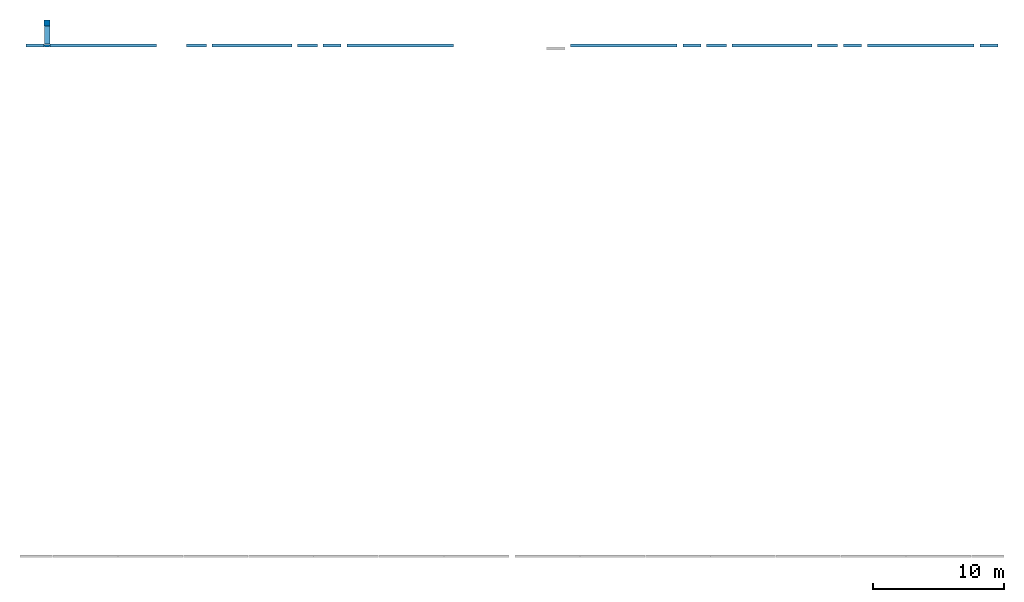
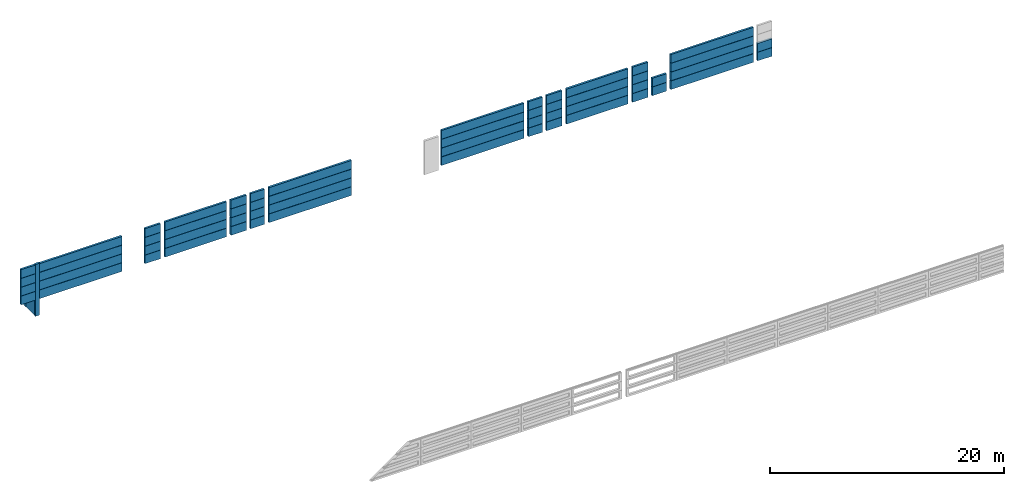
# One storey, part 1 of 3: 57 beams, 2 columns.
"""IFC2X3 building model written with IfcOpenShell, lengths in millimetres."""

from ifc_helpers import new_model, entity, si_unit, converted_unit, derived_unit, direction, frame, frame_2d, origin, origin_2d_with_axis, place, context, subcontext, project, spatial, polyline, rectangle, outline, extrude, source, transform, mapped, material, type_object, type_shapes, element, save


model = new_model("IFC2X3")

# Units and contexts
model_context = context("Model", 3, precision=0.01, world=origin(), true_north=direction((6.12303176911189e-17, 1.0)))
body_context = subcontext(model_context, "Body", "Model", "MODEL_VIEW")
ifc_project = project(units=[si_unit("LENGTHUNIT", "METRE", prefix="MILLI"), si_unit("AREAUNIT", "SQUARE_METRE"), si_unit("VOLUMEUNIT", "CUBIC_METRE"), converted_unit("PLANEANGLEUNIT", "DEGREE", entity("IfcRatioMeasure", 0.0174532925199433), si_unit("PLANEANGLEUNIT", "RADIAN"), dimensions=[0, 0, 0, 0, 0, 0, 0]), si_unit("MASSUNIT", "GRAM", prefix="KILO"), derived_unit("MASSDENSITYUNIT", [(si_unit("MASSUNIT", "GRAM", prefix="KILO"), 1), (si_unit("LENGTHUNIT", "METRE"), -3)]), derived_unit("MOMENTOFINERTIAUNIT", [(si_unit("LENGTHUNIT", "METRE"), 4)]), si_unit("TIMEUNIT", "SECOND"), si_unit("FREQUENCYUNIT", "HERTZ"), si_unit("THERMODYNAMICTEMPERATUREUNIT", "DEGREE_CELSIUS"), derived_unit("THERMALTRANSMITTANCEUNIT", [(si_unit("MASSUNIT", "GRAM", prefix="KILO"), 1), (si_unit("THERMODYNAMICTEMPERATUREUNIT", "KELVIN"), -1), (si_unit("TIMEUNIT", "SECOND"), -3)]), derived_unit("VOLUMETRICFLOWRATEUNIT", [(si_unit("LENGTHUNIT", "METRE"), 3), (si_unit("TIMEUNIT", "SECOND"), -1)]), si_unit("ELECTRICCURRENTUNIT", "AMPERE"), si_unit("ELECTRICVOLTAGEUNIT", "VOLT"), si_unit("POWERUNIT", "WATT"), si_unit("FORCEUNIT", "NEWTON", prefix="KILO"), si_unit("ILLUMINANCEUNIT", "LUX"), si_unit("LUMINOUSFLUXUNIT", "LUMEN"), si_unit("LUMINOUSINTENSITYUNIT", "CANDELA"), derived_unit("USERDEFINED", [(si_unit("MASSUNIT", "GRAM", prefix="KILO"), -1), (si_unit("LENGTHUNIT", "METRE"), -2), (si_unit("TIMEUNIT", "SECOND"), 3), (si_unit("LUMINOUSFLUXUNIT", "LUMEN"), 1)]), derived_unit("LINEARVELOCITYUNIT", [(si_unit("LENGTHUNIT", "METRE"), 1), (si_unit("TIMEUNIT", "SECOND"), -1)]), si_unit("PRESSUREUNIT", "PASCAL"), derived_unit("USERDEFINED", [(si_unit("LENGTHUNIT", "METRE"), -2), (si_unit("MASSUNIT", "GRAM", prefix="KILO"), 1), (si_unit("TIMEUNIT", "SECOND"), -2)]), derived_unit("LINEARFORCEUNIT", [(si_unit("MASSUNIT", "GRAM", prefix="KILO"), 1), (si_unit("LENGTHUNIT", "METRE"), 1), (si_unit("TIMEUNIT", "SECOND"), -2), (si_unit("LENGTHUNIT", "METRE"), -1)]), derived_unit("PLANARFORCEUNIT", [(si_unit("MASSUNIT", "GRAM", prefix="KILO"), 1), (si_unit("LENGTHUNIT", "METRE"), 1), (si_unit("TIMEUNIT", "SECOND"), -2), (si_unit("LENGTHUNIT", "METRE"), -2)])], contexts=[model_context])

# Site, building, storey
site_placement = place(None, frame((10627.5135316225, 21939.0796949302, 0.0)))
site = spatial("IfcSite", under=ifc_project, at=site_placement, Name="Default", CompositionType="ELEMENT")
building_placement = place(site_placement, origin())
building = spatial("IfcBuilding", under=site, at=building_placement, CompositionType="ELEMENT")
storey_placement = place(building_placement, frame((0.0, 0.0, 7320.0)))
storey = spatial("IfcBuildingStorey", under=building, at=storey_placement, Name="R+2", CompositionType="ELEMENT", Elevation=7320.0)

# Columns
ifc_material = material(Name="Concrete, Precast Smooth, Light Grey")
column_type_1 = type_object("IfcColumnType", Name="M_Precast-Rectangular Column:430X200", PredefinedType="COLUMN", material=ifc_material)
shared_shape_1 = source(origin(), body_context, "Body", "SweptSolid", [
    extrude(outline(polyline([(-75.0, -215.0), (75.0, -215.0), (100.0, -190.0), (100.0, 190.0), (75.0, 215.0), (-75.0, 215.0), (-100.0, 190.0), (-100.0, -190.0), (-75.0, -215.0)])), frame((0.0, 0.0, 5820.0), z_axis=(0.0, 0.0, 1.0), x_axis=(0.0, -1.0, 0.0)), (0.0, 0.0, 1.0), 5410.0),
])
type_shapes(column_type_1, [shared_shape_1])
column_1_placement = place(storey_placement, frame((-8797.51353162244, 16585.9203050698, -7320.0), z_axis=(0.0, 0.0, 1.0), x_axis=(-1.0, 0.0, 0.0)))
element("IfcColumn", 1, at=column_1_placement, inside=storey, type_object=column_type_1, material=ifc_material, Name="M_Precast-Rectangular Column:430X200", ObjectType="M_Precast-Rectangular Column:430X200", context=body_context, shape_type="MappedRepresentation", body=[
    mapped(shared_shape_1, transform((0.0, 0.0, 0.0), scale=1.0)),
])
column_type_2 = type_object("IfcColumnType", Name="M_Precast-Square Column:430x430", PredefinedType="COLUMN", material=ifc_material)
shared_shape_2 = source(origin(), body_context, "Body", "SweptSolid", [
    extrude(rectangle(XDim=430.0, YDim=430.0, at=origin_2d_with_axis()), frame((0.0, 0.0, 5820.0), z_axis=(0.0, 0.0, 1.0), x_axis=(0.0, -1.0, 0.0)), (0.0, 0.0, 1.0), 2970.0),
])
type_shapes(column_type_2, [shared_shape_2])
column_2_placement = place(storey_placement, frame((-8797.51353162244, 18310.9203050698, -7320.0), z_axis=(0.0, 0.0, 1.0), x_axis=(-1.0, 0.0, 0.0)))
element("IfcColumn", 2, at=column_2_placement, inside=storey, type_object=column_type_2, material=ifc_material, Name="M_Precast-Square Column:430x430", ObjectType="M_Precast-Square Column:430x430", context=body_context, shape_type="MappedRepresentation", body=[
    mapped(shared_shape_2, transform((0.0, 0.0, 0.0), scale=1.0)),
])

# Beams
beam_type_1 = type_object("IfcBeamType", Name="NBS_AndertonConcreteProductsLtd_PrcstConcPnls_BallastBoard300:PPT TYPE4", PredefinedType="NOTDEFINED")
beam_1_placement = place(storey_placement, origin())
element("IfcBeam", 3, at=beam_1_placement, inside=storey, type_object=beam_type_1, material=ifc_material, Name="NBS_AndertonConcreteProductsLtd_PrcstConcPnls_BallastBoard300:PPT TYPE4", ObjectType="NBS_AndertonConcreteProductsLtd_PrcstConcPnls_BallastBoard300:PPT TYPE4", context=body_context, shape_type="SweptSolid", body=[
    extrude(rectangle(XDim=898.300000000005, YDim=200.0, at=frame_2d((-1.08713038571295e-12, 5.40012479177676e-13), x_axis=(0.0, 1.0))), frame((-8582.51353162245, 16595.9203050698, 648.950000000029), z_axis=(1.0, 0.0, 0.0), x_axis=(0.0, 1.0, 0.0)), (0.0, 0.0, 1.0), 8120.0),
])
beam_2_placement = place(storey_placement, origin())
element("IfcBeam", 4, at=beam_2_placement, inside=storey, type_object=beam_type_1, material=ifc_material, Name="NBS_AndertonConcreteProductsLtd_PrcstConcPnls_BallastBoard300:PPT TYPE4", ObjectType="NBS_AndertonConcreteProductsLtd_PrcstConcPnls_BallastBoard300:PPT TYPE4", context=body_context, shape_type="SweptSolid", body=[
    extrude(rectangle(XDim=898.300000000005, YDim=200.0, at=frame_2d((-1.08713038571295e-12, 5.40012479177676e-13), x_axis=(0.0, 1.0))), frame((14015.4864683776, 16595.9203050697, 648.950000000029), z_axis=(1.0, 0.0, 0.0), x_axis=(0.0, 1.0, 0.0)), (0.0, 0.0, 1.0), 8120.0),
])
beam_3_placement = place(storey_placement, origin())
element("IfcBeam", 5, at=beam_3_placement, inside=storey, type_object=beam_type_1, material=ifc_material, Name="NBS_AndertonConcreteProductsLtd_PrcstConcPnls_BallastBoard300:PPT TYPE4", ObjectType="NBS_AndertonConcreteProductsLtd_PrcstConcPnls_BallastBoard300:PPT TYPE4", context=body_context, shape_type="SweptSolid", body=[
    extrude(rectangle(XDim=898.300000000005, YDim=200.0, at=frame_2d((1.08713038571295e-12, -5.40012479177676e-13), x_axis=(0.0, 1.0))), frame((14015.4864683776, 16595.9203050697, 1567.25000000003), z_axis=(1.0, 0.0, 0.0), x_axis=(0.0, 1.0, 0.0)), (0.0, 0.0, 1.0), 8120.0),
])
beam_4_placement = place(storey_placement, origin())
element("IfcBeam", 6, at=beam_4_placement, inside=storey, type_object=beam_type_1, material=ifc_material, Name="NBS_AndertonConcreteProductsLtd_PrcstConcPnls_BallastBoard300:PPT TYPE4", ObjectType="NBS_AndertonConcreteProductsLtd_PrcstConcPnls_BallastBoard300:PPT TYPE4", context=body_context, shape_type="SweptSolid", body=[
    extrude(rectangle(XDim=898.300000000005, YDim=200.0, at=frame_2d((-1.08713038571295e-12, -5.40012479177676e-13), x_axis=(0.0, 1.0))), frame((14015.4864683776, 16595.9203050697, 2485.55000000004), z_axis=(1.0, 0.0, 0.0), x_axis=(0.0, 1.0, 0.0)), (0.0, 0.0, 1.0), 8120.0),
])
beam_5_placement = place(storey_placement, origin())
element("IfcBeam", 7, at=beam_5_placement, inside=storey, type_object=beam_type_1, material=ifc_material, Name="NBS_AndertonConcreteProductsLtd_PrcstConcPnls_BallastBoard300:PPT TYPE4", ObjectType="NBS_AndertonConcreteProductsLtd_PrcstConcPnls_BallastBoard300:PPT TYPE4", context=body_context, shape_type="SweptSolid", body=[
    extrude(rectangle(XDim=898.300000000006, YDim=200.0, at=frame_2d((1.08713038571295e-12, -1.08002495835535e-12), x_axis=(0.0, 1.0))), frame((14015.4864683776, 16595.9203050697, 3403.85000000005), z_axis=(1.0, 0.0, 0.0), x_axis=(0.0, 1.0, 0.0)), (0.0, 0.0, 1.0), 8120.0),
])
beam_6_placement = place(storey_placement, origin())
element("IfcBeam", 8, at=beam_6_placement, inside=storey, type_object=beam_type_1, material=ifc_material, Name="NBS_AndertonConcreteProductsLtd_PrcstConcPnls_BallastBoard300:PPT TYPE4", ObjectType="NBS_AndertonConcreteProductsLtd_PrcstConcPnls_BallastBoard300:PPT TYPE4", context=body_context, shape_type="SweptSolid", body=[
    extrude(rectangle(XDim=898.300000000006, YDim=200.0, at=frame_2d((1.08002495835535e-12, -1.08713038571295e-12), x_axis=(1.0, 0.0))), frame((53617.4864683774, 16595.9203050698, 648.950000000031), z_axis=(1.0, 0.0, 0.0), x_axis=(0.0, 0.0, -1.0)), (0.0, 0.0, 1.0), 8120.0),
])
beam_7_placement = place(storey_placement, origin())
element("IfcBeam", 9, at=beam_7_placement, inside=storey, type_object=beam_type_1, material=ifc_material, Name="NBS_AndertonConcreteProductsLtd_PrcstConcPnls_BallastBoard300:PPT TYPE4", ObjectType="NBS_AndertonConcreteProductsLtd_PrcstConcPnls_BallastBoard300:PPT TYPE4", context=body_context, shape_type="SweptSolid", body=[
    extrude(rectangle(XDim=898.300000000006, YDim=200.0, at=frame_2d((1.08002495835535e-12, -1.08713038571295e-12), x_axis=(1.0, 0.0))), frame((31019.4864683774, 16595.9203050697, 648.950000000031), z_axis=(1.0, 0.0, 0.0), x_axis=(0.0, 0.0, -1.0)), (0.0, 0.0, 1.0), 8120.0),
])
beam_8_placement = place(storey_placement, origin())
element("IfcBeam", 10, at=beam_8_placement, inside=storey, type_object=beam_type_1, material=ifc_material, Name="NBS_AndertonConcreteProductsLtd_PrcstConcPnls_BallastBoard300:PPT TYPE4", ObjectType="NBS_AndertonConcreteProductsLtd_PrcstConcPnls_BallastBoard300:PPT TYPE4", context=body_context, shape_type="SweptSolid", body=[
    extrude(rectangle(XDim=898.300000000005, YDim=200.0, at=frame_2d((5.40012479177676e-13, 1.08713038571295e-12), x_axis=(1.0, 0.0))), frame((31019.4864683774, 16595.9203050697, 1567.25000000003), z_axis=(1.0, 0.0, 0.0), x_axis=(0.0, 0.0, -1.0)), (0.0, 0.0, 1.0), 8120.0),
])
beam_9_placement = place(storey_placement, origin())
element("IfcBeam", 11, at=beam_9_placement, inside=storey, type_object=beam_type_1, material=ifc_material, Name="NBS_AndertonConcreteProductsLtd_PrcstConcPnls_BallastBoard300:PPT TYPE4", ObjectType="NBS_AndertonConcreteProductsLtd_PrcstConcPnls_BallastBoard300:PPT TYPE4", context=body_context, shape_type="SweptSolid", body=[
    extrude(rectangle(XDim=898.300000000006, YDim=200.0, at=frame_2d((5.40012479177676e-13, 1.08713038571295e-12), x_axis=(1.0, 0.0))), frame((31019.4864683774, 16595.9203050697, 2485.55000000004), z_axis=(1.0, 0.0, 0.0), x_axis=(0.0, 0.0, -1.0)), (0.0, 0.0, 1.0), 8120.0),
])
beam_10_placement = place(storey_placement, origin())
element("IfcBeam", 12, at=beam_10_placement, inside=storey, type_object=beam_type_1, material=ifc_material, Name="NBS_AndertonConcreteProductsLtd_PrcstConcPnls_BallastBoard300:PPT TYPE4", ObjectType="NBS_AndertonConcreteProductsLtd_PrcstConcPnls_BallastBoard300:PPT TYPE4", context=body_context, shape_type="SweptSolid", body=[
    extrude(rectangle(XDim=898.300000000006, YDim=200.0, at=frame_2d((-1.08002495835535e-12, -1.08713038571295e-12), x_axis=(1.0, 0.0))), frame((31019.4864683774, 16595.9203050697, 3403.85000000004), z_axis=(1.0, 0.0, 0.0), x_axis=(0.0, 0.0, -1.0)), (0.0, 0.0, 1.0), 8120.0),
])
beam_11_placement = place(storey_placement, origin())
element("IfcBeam", 13, at=beam_11_placement, inside=storey, type_object=beam_type_1, material=ifc_material, Name="NBS_AndertonConcreteProductsLtd_PrcstConcPnls_BallastBoard300:PPT TYPE4", ObjectType="NBS_AndertonConcreteProductsLtd_PrcstConcPnls_BallastBoard300:PPT TYPE4", context=body_context, shape_type="SweptSolid", body=[
    extrude(rectangle(XDim=898.300000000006, YDim=200.0, at=frame_2d((-1.08002495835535e-12, -1.08713038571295e-12), x_axis=(1.0, 0.0))), frame((53617.4864683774, 16595.9203050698, 1567.25000000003), z_axis=(1.0, 0.0, 0.0), x_axis=(0.0, 0.0, -1.0)), (0.0, 0.0, 1.0), 8120.0),
])
beam_12_placement = place(storey_placement, origin())
element("IfcBeam", 14, at=beam_12_placement, inside=storey, type_object=beam_type_1, material=ifc_material, Name="NBS_AndertonConcreteProductsLtd_PrcstConcPnls_BallastBoard300:PPT TYPE4", ObjectType="NBS_AndertonConcreteProductsLtd_PrcstConcPnls_BallastBoard300:PPT TYPE4", context=body_context, shape_type="SweptSolid", body=[
    extrude(rectangle(XDim=898.300000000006, YDim=200.0, at=frame_2d((-1.62003743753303e-12, -1.08713038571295e-12), x_axis=(1.0, 0.0))), frame((53617.4864683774, 16595.9203050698, 2485.55000000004), z_axis=(1.0, 0.0, 0.0), x_axis=(0.0, 0.0, -1.0)), (0.0, 0.0, 1.0), 8120.0),
])
beam_13_placement = place(storey_placement, origin())
element("IfcBeam", 15, at=beam_13_placement, inside=storey, type_object=beam_type_1, material=ifc_material, Name="NBS_AndertonConcreteProductsLtd_PrcstConcPnls_BallastBoard300:PPT TYPE4", ObjectType="NBS_AndertonConcreteProductsLtd_PrcstConcPnls_BallastBoard300:PPT TYPE4", context=body_context, shape_type="SweptSolid", body=[
    extrude(rectangle(XDim=898.300000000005, YDim=200.0, at=frame_2d((1.08713038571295e-12, -5.40012479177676e-13), x_axis=(0.0, 1.0))), frame((-8582.51353162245, 16595.9203050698, 1567.25000000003), z_axis=(1.0, 0.0, 0.0), x_axis=(0.0, 1.0, 0.0)), (0.0, 0.0, 1.0), 8120.0),
])
beam_14_placement = place(storey_placement, origin())
element("IfcBeam", 16, at=beam_14_placement, inside=storey, type_object=beam_type_1, material=ifc_material, Name="NBS_AndertonConcreteProductsLtd_PrcstConcPnls_BallastBoard300:PPT TYPE4", ObjectType="NBS_AndertonConcreteProductsLtd_PrcstConcPnls_BallastBoard300:PPT TYPE4", context=body_context, shape_type="SweptSolid", body=[
    extrude(rectangle(XDim=898.300000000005, YDim=200.0, at=frame_2d((-1.08713038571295e-12, -5.40012479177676e-13), x_axis=(0.0, 1.0))), frame((-8582.51353162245, 16595.9203050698, 2485.55000000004), z_axis=(1.0, 0.0, 0.0), x_axis=(0.0, 1.0, 0.0)), (0.0, 0.0, 1.0), 8120.0),
])
beam_15_placement = place(storey_placement, origin())
element("IfcBeam", 17, at=beam_15_placement, inside=storey, type_object=beam_type_1, material=ifc_material, Name="NBS_AndertonConcreteProductsLtd_PrcstConcPnls_BallastBoard300:PPT TYPE4", ObjectType="NBS_AndertonConcreteProductsLtd_PrcstConcPnls_BallastBoard300:PPT TYPE4", context=body_context, shape_type="SweptSolid", body=[
    extrude(rectangle(XDim=898.300000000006, YDim=200.0, at=frame_2d((1.08713038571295e-12, -1.08002495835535e-12), x_axis=(0.0, 1.0))), frame((-8582.51353162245, 16595.9203050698, 3403.85000000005), z_axis=(1.0, 0.0, 0.0), x_axis=(0.0, 1.0, 0.0)), (0.0, 0.0, 1.0), 8120.0),
])
beam_16_placement = place(storey_placement, origin())
element("IfcBeam", 18, at=beam_16_placement, inside=storey, type_object=beam_type_1, material=ifc_material, Name="NBS_AndertonConcreteProductsLtd_PrcstConcPnls_BallastBoard300:PPT TYPE4", ObjectType="NBS_AndertonConcreteProductsLtd_PrcstConcPnls_BallastBoard300:PPT TYPE4", context=body_context, shape_type="SweptSolid", body=[
    extrude(rectangle(XDim=898.300000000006, YDim=200.0, at=frame_2d((1.08002495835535e-12, 1.08713038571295e-12), x_axis=(1.0, 0.0))), frame((53617.4864683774, 16595.9203050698, 3403.85000000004), z_axis=(1.0, 0.0, 0.0), x_axis=(0.0, 0.0, -1.0)), (0.0, 0.0, 1.0), 8120.0),
])
beam_type_2 = type_object("IfcBeamType", Name="NBS_AndertonConcreteProductsLtd_PrcstConcPnls_BallastBoard300:PPT TYPE5", PredefinedType="NOTDEFINED")
beam_17_placement = place(storey_placement, origin())
element("IfcBeam", 19, at=beam_17_placement, inside=storey, type_object=beam_type_2, material=ifc_material, Name="NBS_AndertonConcreteProductsLtd_PrcstConcPnls_BallastBoard300:PPT TYPE5", ObjectType="NBS_AndertonConcreteProductsLtd_PrcstConcPnls_BallastBoard300:PPT TYPE5", context=body_context, shape_type="SweptSolid", body=[
    extrude(rectangle(XDim=898.300000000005, YDim=200.0, at=frame_2d((1.08713038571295e-12, 5.40012479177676e-13), x_axis=(0.0, 1.0))), frame((1799.48646837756, 16595.9203050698, 648.950000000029), z_axis=(1.0, 0.0, 0.0), x_axis=(0.0, 1.0, 0.0)), (0.0, 0.0, 1.0), 1525.0),
])
beam_18_placement = place(storey_placement, origin())
element("IfcBeam", 20, at=beam_18_placement, inside=storey, type_object=beam_type_2, material=ifc_material, Name="NBS_AndertonConcreteProductsLtd_PrcstConcPnls_BallastBoard300:PPT TYPE5", ObjectType="NBS_AndertonConcreteProductsLtd_PrcstConcPnls_BallastBoard300:PPT TYPE5", context=body_context, shape_type="SweptSolid", body=[
    extrude(rectangle(XDim=898.300000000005, YDim=200.0, at=frame_2d((-1.08713038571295e-12, 5.40012479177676e-13), x_axis=(0.0, 1.0))), frame((10258.6417434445, 16595.9203050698, 648.950000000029), z_axis=(1.0, 0.0, 0.0), x_axis=(0.0, 1.0, 0.0)), (0.0, 0.0, 1.0), 1525.0),
])
beam_19_placement = place(storey_placement, origin())
element("IfcBeam", 21, at=beam_19_placement, inside=storey, type_object=beam_type_2, material=ifc_material, Name="NBS_AndertonConcreteProductsLtd_PrcstConcPnls_BallastBoard300:PPT TYPE5", ObjectType="NBS_AndertonConcreteProductsLtd_PrcstConcPnls_BallastBoard300:PPT TYPE5", context=body_context, shape_type="SweptSolid", body=[
    extrude(rectangle(XDim=898.300000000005, YDim=200.0, at=frame_2d((-1.08713038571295e-12, -5.40012479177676e-13), x_axis=(0.0, 1.0))), frame((1799.48646837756, 16595.9203050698, 1567.25000000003), z_axis=(1.0, 0.0, 0.0), x_axis=(0.0, 1.0, 0.0)), (0.0, 0.0, 1.0), 1525.0),
])
beam_20_placement = place(storey_placement, origin())
element("IfcBeam", 22, at=beam_20_placement, inside=storey, type_object=beam_type_2, material=ifc_material, Name="NBS_AndertonConcreteProductsLtd_PrcstConcPnls_BallastBoard300:PPT TYPE5", ObjectType="NBS_AndertonConcreteProductsLtd_PrcstConcPnls_BallastBoard300:PPT TYPE5", context=body_context, shape_type="SweptSolid", body=[
    extrude(rectangle(XDim=898.300000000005, YDim=200.0, at=frame_2d((1.08713038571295e-12, -5.40012479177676e-13), x_axis=(0.0, 1.0))), frame((10258.6417434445, 16595.9203050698, 1567.25000000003), z_axis=(1.0, 0.0, 0.0), x_axis=(0.0, 1.0, 0.0)), (0.0, 0.0, 1.0), 1525.0),
])
beam_21_placement = place(storey_placement, origin())
element("IfcBeam", 23, at=beam_21_placement, inside=storey, type_object=beam_type_2, material=ifc_material, Name="NBS_AndertonConcreteProductsLtd_PrcstConcPnls_BallastBoard300:PPT TYPE5", ObjectType="NBS_AndertonConcreteProductsLtd_PrcstConcPnls_BallastBoard300:PPT TYPE5", context=body_context, shape_type="SweptSolid", body=[
    extrude(rectangle(XDim=898.300000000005, YDim=200.0, at=frame_2d((1.08713038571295e-12, -5.40012479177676e-13), x_axis=(0.0, 1.0))), frame((1799.48646837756, 16595.9203050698, 2485.55000000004), z_axis=(1.0, 0.0, 0.0), x_axis=(0.0, 1.0, 0.0)), (0.0, 0.0, 1.0), 1525.0),
])
beam_22_placement = place(storey_placement, origin())
element("IfcBeam", 24, at=beam_22_placement, inside=storey, type_object=beam_type_2, material=ifc_material, Name="NBS_AndertonConcreteProductsLtd_PrcstConcPnls_BallastBoard300:PPT TYPE5", ObjectType="NBS_AndertonConcreteProductsLtd_PrcstConcPnls_BallastBoard300:PPT TYPE5", context=body_context, shape_type="SweptSolid", body=[
    extrude(rectangle(XDim=898.300000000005, YDim=200.0, at=frame_2d((1.08713038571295e-12, -5.40012479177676e-13), x_axis=(0.0, 1.0))), frame((10258.6417434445, 16595.9203050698, 2485.55000000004), z_axis=(1.0, 0.0, 0.0), x_axis=(0.0, 1.0, 0.0)), (0.0, 0.0, 1.0), 1525.0),
])
beam_23_placement = place(storey_placement, origin())
element("IfcBeam", 25, at=beam_23_placement, inside=storey, type_object=beam_type_2, material=ifc_material, Name="NBS_AndertonConcreteProductsLtd_PrcstConcPnls_BallastBoard300:PPT TYPE5", ObjectType="NBS_AndertonConcreteProductsLtd_PrcstConcPnls_BallastBoard300:PPT TYPE5", context=body_context, shape_type="SweptSolid", body=[
    extrude(rectangle(XDim=898.300000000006, YDim=200.0, at=frame_2d((-1.08713038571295e-12, -1.08002495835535e-12), x_axis=(0.0, 1.0))), frame((1799.48646837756, 16595.9203050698, 3403.85000000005), z_axis=(1.0, 0.0, 0.0), x_axis=(0.0, 1.0, 0.0)), (0.0, 0.0, 1.0), 1525.0),
])
beam_24_placement = place(storey_placement, origin())
element("IfcBeam", 26, at=beam_24_placement, inside=storey, type_object=beam_type_2, material=ifc_material, Name="NBS_AndertonConcreteProductsLtd_PrcstConcPnls_BallastBoard300:PPT TYPE5", ObjectType="NBS_AndertonConcreteProductsLtd_PrcstConcPnls_BallastBoard300:PPT TYPE5", context=body_context, shape_type="SweptSolid", body=[
    extrude(rectangle(XDim=898.300000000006, YDim=200.0, at=frame_2d((1.08713038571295e-12, -1.08002495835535e-12), x_axis=(0.0, 1.0))), frame((10258.6417434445, 16595.9203050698, 3403.85000000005), z_axis=(1.0, 0.0, 0.0), x_axis=(0.0, 1.0, 0.0)), (0.0, 0.0, 1.0), 1525.0),
])
beam_25_placement = place(storey_placement, origin())
element("IfcBeam", 27, at=beam_25_placement, inside=storey, type_object=beam_type_2, material=ifc_material, Name="NBS_AndertonConcreteProductsLtd_PrcstConcPnls_BallastBoard300:PPT TYPE5", ObjectType="NBS_AndertonConcreteProductsLtd_PrcstConcPnls_BallastBoard300:PPT TYPE5", context=body_context, shape_type="SweptSolid", body=[
    extrude(rectangle(XDim=898.300000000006, YDim=200.0, at=frame_2d((1.08002495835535e-12, 1.08713038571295e-12), x_axis=(1.0, 0.0))), frame((49830.4864683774, 16595.9203050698, 648.950000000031), z_axis=(1.0, 0.0, 0.0), x_axis=(0.0, 0.0, -1.0)), (0.0, 0.0, 1.0), 1525.0),
])
beam_26_placement = place(storey_placement, origin())
element("IfcBeam", 28, at=beam_26_placement, inside=storey, type_object=beam_type_2, material=ifc_material, Name="NBS_AndertonConcreteProductsLtd_PrcstConcPnls_BallastBoard300:PPT TYPE5", ObjectType="NBS_AndertonConcreteProductsLtd_PrcstConcPnls_BallastBoard300:PPT TYPE5", context=body_context, shape_type="SweptSolid", body=[
    extrude(rectangle(XDim=898.300000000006, YDim=200.0, at=frame_2d((1.08002495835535e-12, 1.08713038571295e-12), x_axis=(1.0, 0.0))), frame((41371.3311933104, 16595.9203050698, 648.950000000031), z_axis=(1.0, 0.0, 0.0), x_axis=(0.0, 0.0, -1.0)), (0.0, 0.0, 1.0), 1525.0),
])
beam_27_placement = place(storey_placement, origin())
element("IfcBeam", 29, at=beam_27_placement, inside=storey, type_object=beam_type_2, material=ifc_material, Name="NBS_AndertonConcreteProductsLtd_PrcstConcPnls_BallastBoard300:PPT TYPE5", ObjectType="NBS_AndertonConcreteProductsLtd_PrcstConcPnls_BallastBoard300:PPT TYPE5", context=body_context, shape_type="SweptSolid", body=[
    extrude(rectangle(XDim=898.300000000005, YDim=200.0, at=frame_2d((5.40012479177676e-13, -1.08713038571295e-12), x_axis=(1.0, 0.0))), frame((49830.4864683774, 16595.9203050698, 1567.25000000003), z_axis=(1.0, 0.0, 0.0), x_axis=(0.0, 0.0, -1.0)), (0.0, 0.0, 1.0), 1525.0),
])
beam_28_placement = place(storey_placement, origin())
element("IfcBeam", 30, at=beam_28_placement, inside=storey, type_object=beam_type_2, material=ifc_material, Name="NBS_AndertonConcreteProductsLtd_PrcstConcPnls_BallastBoard300:PPT TYPE5", ObjectType="NBS_AndertonConcreteProductsLtd_PrcstConcPnls_BallastBoard300:PPT TYPE5", context=body_context, shape_type="SweptSolid", body=[
    extrude(rectangle(XDim=898.300000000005, YDim=200.0, at=frame_2d((5.40012479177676e-13, -1.08713038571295e-12), x_axis=(1.0, 0.0))), frame((41371.3311933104, 16595.9203050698, 1567.25000000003), z_axis=(1.0, 0.0, 0.0), x_axis=(0.0, 0.0, -1.0)), (0.0, 0.0, 1.0), 1525.0),
])
beam_29_placement = place(storey_placement, origin())
element("IfcBeam", 31, at=beam_29_placement, inside=storey, type_object=beam_type_2, material=ifc_material, Name="NBS_AndertonConcreteProductsLtd_PrcstConcPnls_BallastBoard300:PPT TYPE5", ObjectType="NBS_AndertonConcreteProductsLtd_PrcstConcPnls_BallastBoard300:PPT TYPE5", context=body_context, shape_type="SweptSolid", body=[
    extrude(rectangle(XDim=898.300000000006, YDim=200.0, at=frame_2d((5.40012479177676e-13, -1.08713038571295e-12), x_axis=(1.0, 0.0))), frame((49830.4864683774, 16595.9203050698, 2485.55000000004), z_axis=(1.0, 0.0, 0.0), x_axis=(0.0, 0.0, -1.0)), (0.0, 0.0, 1.0), 1525.0),
])
beam_30_placement = place(storey_placement, origin())
element("IfcBeam", 32, at=beam_30_placement, inside=storey, type_object=beam_type_2, material=ifc_material, Name="NBS_AndertonConcreteProductsLtd_PrcstConcPnls_BallastBoard300:PPT TYPE5", ObjectType="NBS_AndertonConcreteProductsLtd_PrcstConcPnls_BallastBoard300:PPT TYPE5", context=body_context, shape_type="SweptSolid", body=[
    extrude(rectangle(XDim=898.300000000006, YDim=200.0, at=frame_2d((5.40012479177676e-13, -1.08713038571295e-12), x_axis=(1.0, 0.0))), frame((41371.3311933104, 16595.9203050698, 2485.55000000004), z_axis=(1.0, 0.0, 0.0), x_axis=(0.0, 0.0, -1.0)), (0.0, 0.0, 1.0), 1525.0),
])
beam_31_placement = place(storey_placement, origin())
element("IfcBeam", 33, at=beam_31_placement, inside=storey, type_object=beam_type_2, material=ifc_material, Name="NBS_AndertonConcreteProductsLtd_PrcstConcPnls_BallastBoard300:PPT TYPE5", ObjectType="NBS_AndertonConcreteProductsLtd_PrcstConcPnls_BallastBoard300:PPT TYPE5", context=body_context, shape_type="SweptSolid", body=[
    extrude(rectangle(XDim=898.300000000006, YDim=200.0, at=frame_2d((-1.08002495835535e-12, -1.08713038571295e-12), x_axis=(1.0, 0.0))), frame((49830.4864683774, 16595.9203050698, 3403.85000000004), z_axis=(1.0, 0.0, 0.0), x_axis=(0.0, 0.0, -1.0)), (0.0, 0.0, 1.0), 1525.0),
])
beam_32_placement = place(storey_placement, origin())
element("IfcBeam", 34, at=beam_32_placement, inside=storey, type_object=beam_type_2, material=ifc_material, Name="NBS_AndertonConcreteProductsLtd_PrcstConcPnls_BallastBoard300:PPT TYPE5", ObjectType="NBS_AndertonConcreteProductsLtd_PrcstConcPnls_BallastBoard300:PPT TYPE5", context=body_context, shape_type="SweptSolid", body=[
    extrude(rectangle(XDim=898.300000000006, YDim=200.0, at=frame_2d((-1.08002495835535e-12, 1.08713038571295e-12), x_axis=(1.0, 0.0))), frame((41371.3311933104, 16595.9203050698, 3403.85000000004), z_axis=(1.0, 0.0, 0.0), x_axis=(0.0, 0.0, -1.0)), (0.0, 0.0, 1.0), 1525.0),
])
beam_type_3 = type_object("IfcBeamType", Name="NBS_AndertonConcreteProductsLtd_PrcstConcPnls_BallastBoard300:PPT TYPE6", PredefinedType="NOTDEFINED")
beam_33_placement = place(storey_placement, origin())
element("IfcBeam", 35, at=beam_33_placement, inside=storey, type_object=beam_type_3, material=ifc_material, Name="NBS_AndertonConcreteProductsLtd_PrcstConcPnls_BallastBoard300:PPT TYPE6", ObjectType="NBS_AndertonConcreteProductsLtd_PrcstConcPnls_BallastBoard300:PPT TYPE6", context=body_context, shape_type="SweptSolid", body=[
    extrude(rectangle(XDim=898.300000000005, YDim=200.0, at=frame_2d((-1.08713038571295e-12, 5.40012479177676e-13), x_axis=(0.0, 1.0))), frame((3764.48646837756, 16595.9203050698, 648.950000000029), z_axis=(1.0, 0.0, 0.0), x_axis=(0.0, 1.0, 0.0)), (0.0, 0.0, 1.0), 6066.3),
])
beam_34_placement = place(storey_placement, origin())
element("IfcBeam", 36, at=beam_34_placement, inside=storey, type_object=beam_type_3, material=ifc_material, Name="NBS_AndertonConcreteProductsLtd_PrcstConcPnls_BallastBoard300:PPT TYPE6", ObjectType="NBS_AndertonConcreteProductsLtd_PrcstConcPnls_BallastBoard300:PPT TYPE6", context=body_context, shape_type="SweptSolid", body=[
    extrude(rectangle(XDim=898.300000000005, YDim=200.0, at=frame_2d((1.08713038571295e-12, -5.40012479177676e-13), x_axis=(0.0, 1.0))), frame((3764.48646837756, 16595.9203050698, 1567.25000000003), z_axis=(1.0, 0.0, 0.0), x_axis=(0.0, 1.0, 0.0)), (0.0, 0.0, 1.0), 6066.3),
])
beam_35_placement = place(storey_placement, origin())
element("IfcBeam", 37, at=beam_35_placement, inside=storey, type_object=beam_type_3, material=ifc_material, Name="NBS_AndertonConcreteProductsLtd_PrcstConcPnls_BallastBoard300:PPT TYPE6", ObjectType="NBS_AndertonConcreteProductsLtd_PrcstConcPnls_BallastBoard300:PPT TYPE6", context=body_context, shape_type="SweptSolid", body=[
    extrude(rectangle(XDim=898.300000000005, YDim=200.0, at=frame_2d((-1.08713038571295e-12, -5.40012479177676e-13), x_axis=(0.0, 1.0))), frame((3764.48646837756, 16595.9203050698, 2485.55000000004), z_axis=(1.0, 0.0, 0.0), x_axis=(0.0, 1.0, 0.0)), (0.0, 0.0, 1.0), 6066.3),
])
beam_36_placement = place(storey_placement, origin())
element("IfcBeam", 38, at=beam_36_placement, inside=storey, type_object=beam_type_3, material=ifc_material, Name="NBS_AndertonConcreteProductsLtd_PrcstConcPnls_BallastBoard300:PPT TYPE6", ObjectType="NBS_AndertonConcreteProductsLtd_PrcstConcPnls_BallastBoard300:PPT TYPE6", context=body_context, shape_type="SweptSolid", body=[
    extrude(rectangle(XDim=898.300000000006, YDim=200.0, at=frame_2d((1.08713038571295e-12, -1.08002495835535e-12), x_axis=(0.0, 1.0))), frame((3764.48646837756, 16595.9203050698, 3403.85000000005), z_axis=(1.0, 0.0, 0.0), x_axis=(0.0, 1.0, 0.0)), (0.0, 0.0, 1.0), 6066.3),
])
beam_37_placement = place(storey_placement, origin())
element("IfcBeam", 39, at=beam_37_placement, inside=storey, type_object=beam_type_3, material=ifc_material, Name="NBS_AndertonConcreteProductsLtd_PrcstConcPnls_BallastBoard300:PPT TYPE6", ObjectType="NBS_AndertonConcreteProductsLtd_PrcstConcPnls_BallastBoard300:PPT TYPE6", context=body_context, shape_type="SweptSolid", body=[
    extrude(rectangle(XDim=898.300000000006, YDim=200.0, at=frame_2d((1.08002495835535e-12, -1.08713038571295e-12), x_axis=(1.0, 0.0))), frame((43324.1864683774, 16595.9203050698, 648.950000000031), z_axis=(1.0, 0.0, 0.0), x_axis=(0.0, 0.0, -1.0)), (0.0, 0.0, 1.0), 6066.3),
])
beam_38_placement = place(storey_placement, origin())
element("IfcBeam", 40, at=beam_38_placement, inside=storey, type_object=beam_type_3, material=ifc_material, Name="NBS_AndertonConcreteProductsLtd_PrcstConcPnls_BallastBoard300:PPT TYPE6", ObjectType="NBS_AndertonConcreteProductsLtd_PrcstConcPnls_BallastBoard300:PPT TYPE6", context=body_context, shape_type="SweptSolid", body=[
    extrude(rectangle(XDim=898.300000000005, YDim=200.0, at=frame_2d((5.40012479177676e-13, 1.08713038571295e-12), x_axis=(1.0, 0.0))), frame((43324.1864683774, 16595.9203050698, 1567.25000000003), z_axis=(1.0, 0.0, 0.0), x_axis=(0.0, 0.0, -1.0)), (0.0, 0.0, 1.0), 6066.3),
])
beam_39_placement = place(storey_placement, origin())
element("IfcBeam", 41, at=beam_39_placement, inside=storey, type_object=beam_type_3, material=ifc_material, Name="NBS_AndertonConcreteProductsLtd_PrcstConcPnls_BallastBoard300:PPT TYPE6", ObjectType="NBS_AndertonConcreteProductsLtd_PrcstConcPnls_BallastBoard300:PPT TYPE6", context=body_context, shape_type="SweptSolid", body=[
    extrude(rectangle(XDim=898.300000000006, YDim=200.0, at=frame_2d((5.40012479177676e-13, 1.08713038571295e-12), x_axis=(1.0, 0.0))), frame((43324.1864683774, 16595.9203050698, 2485.55000000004), z_axis=(1.0, 0.0, 0.0), x_axis=(0.0, 0.0, -1.0)), (0.0, 0.0, 1.0), 6066.3),
])
beam_40_placement = place(storey_placement, origin())
element("IfcBeam", 42, at=beam_40_placement, inside=storey, type_object=beam_type_3, material=ifc_material, Name="NBS_AndertonConcreteProductsLtd_PrcstConcPnls_BallastBoard300:PPT TYPE6", ObjectType="NBS_AndertonConcreteProductsLtd_PrcstConcPnls_BallastBoard300:PPT TYPE6", context=body_context, shape_type="SweptSolid", body=[
    extrude(rectangle(XDim=898.300000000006, YDim=200.0, at=frame_2d((-1.08002495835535e-12, -1.08713038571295e-12), x_axis=(1.0, 0.0))), frame((43324.1864683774, 16595.9203050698, 3403.85000000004), z_axis=(1.0, 0.0, 0.0), x_axis=(0.0, 0.0, -1.0)), (0.0, 0.0, 1.0), 6066.3),
])
beam_type_4 = type_object("IfcBeamType", Name="NBS_AndertonConcreteProductsLtd_PrcstConcPnls_BallastBoard300:PPT TYPE7", PredefinedType="NOTDEFINED")
beam_41_placement = place(storey_placement, origin())
element("IfcBeam", 43, at=beam_41_placement, inside=storey, type_object=beam_type_4, material=ifc_material, Name="NBS_AndertonConcreteProductsLtd_PrcstConcPnls_BallastBoard300:PPT TYPE7", ObjectType="NBS_AndertonConcreteProductsLtd_PrcstConcPnls_BallastBoard300:PPT TYPE7", context=body_context, shape_type="SweptSolid", body=[
    extrude(rectangle(XDim=898.300000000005, YDim=200.0, at=frame_2d((1.08713038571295e-12, 5.40012479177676e-13), x_axis=(0.0, 1.0))), frame((12183.4864683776, 16595.9203050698, 648.950000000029), z_axis=(1.0, 0.0, 0.0), x_axis=(0.0, 1.0, 0.0)), (0.0, 0.0, 1.0), 1395.0),
])
beam_42_placement = place(storey_placement, origin())
element("IfcBeam", 44, at=beam_42_placement, inside=storey, type_object=beam_type_4, material=ifc_material, Name="NBS_AndertonConcreteProductsLtd_PrcstConcPnls_BallastBoard300:PPT TYPE7", ObjectType="NBS_AndertonConcreteProductsLtd_PrcstConcPnls_BallastBoard300:PPT TYPE7", context=body_context, shape_type="SweptSolid", body=[
    extrude(rectangle(XDim=898.300000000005, YDim=200.0, at=frame_2d((-1.08713038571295e-12, -5.40012479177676e-13), x_axis=(0.0, 1.0))), frame((-10409.5135316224, 16595.9203050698, 648.950000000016), z_axis=(1.0, 0.0, 0.0), x_axis=(0.0, 1.0, 0.0)), (0.0, 0.0, 1.0), 1395.0),
])
beam_43_placement = place(storey_placement, origin())
element("IfcBeam", 45, at=beam_43_placement, inside=storey, type_object=beam_type_4, material=ifc_material, Name="NBS_AndertonConcreteProductsLtd_PrcstConcPnls_BallastBoard300:PPT TYPE7", ObjectType="NBS_AndertonConcreteProductsLtd_PrcstConcPnls_BallastBoard300:PPT TYPE7", context=body_context, shape_type="SweptSolid", body=[
    extrude(rectangle(XDim=898.300000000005, YDim=200.0, at=frame_2d((-1.08713038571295e-12, -5.40012479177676e-13), x_axis=(0.0, 1.0))), frame((12183.4864683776, 16595.9203050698, 1567.25000000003), z_axis=(1.0, 0.0, 0.0), x_axis=(0.0, 1.0, 0.0)), (0.0, 0.0, 1.0), 1395.0),
])
beam_44_placement = place(storey_placement, origin())
element("IfcBeam", 46, at=beam_44_placement, inside=storey, type_object=beam_type_4, material=ifc_material, Name="NBS_AndertonConcreteProductsLtd_PrcstConcPnls_BallastBoard300:PPT TYPE7", ObjectType="NBS_AndertonConcreteProductsLtd_PrcstConcPnls_BallastBoard300:PPT TYPE7", context=body_context, shape_type="SweptSolid", body=[
    extrude(rectangle(XDim=898.300000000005, YDim=200.0, at=frame_2d((1.08713038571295e-12, -5.40012479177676e-13), x_axis=(0.0, 1.0))), frame((12183.4864683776, 16595.9203050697, 2485.55000000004), z_axis=(1.0, 0.0, 0.0), x_axis=(0.0, 1.0, 0.0)), (0.0, 0.0, 1.0), 1395.0),
])
beam_45_placement = place(storey_placement, origin())
element("IfcBeam", 47, at=beam_45_placement, inside=storey, type_object=beam_type_4, material=ifc_material, Name="NBS_AndertonConcreteProductsLtd_PrcstConcPnls_BallastBoard300:PPT TYPE7", ObjectType="NBS_AndertonConcreteProductsLtd_PrcstConcPnls_BallastBoard300:PPT TYPE7", context=body_context, shape_type="SweptSolid", body=[
    extrude(rectangle(XDim=898.300000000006, YDim=200.0, at=frame_2d((-1.08713038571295e-12, -1.08002495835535e-12), x_axis=(0.0, 1.0))), frame((12183.4864683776, 16595.9203050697, 3403.85000000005), z_axis=(1.0, 0.0, 0.0), x_axis=(0.0, 1.0, 0.0)), (0.0, 0.0, 1.0), 1395.0),
])
beam_46_placement = place(storey_placement, origin())
element("IfcBeam", 48, at=beam_46_placement, inside=storey, type_object=beam_type_4, material=ifc_material, Name="NBS_AndertonConcreteProductsLtd_PrcstConcPnls_BallastBoard300:PPT TYPE7", ObjectType="NBS_AndertonConcreteProductsLtd_PrcstConcPnls_BallastBoard300:PPT TYPE7", context=body_context, shape_type="SweptSolid", body=[
    extrude(rectangle(XDim=898.300000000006, YDim=200.0, at=frame_2d((1.08002495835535e-12, 1.08713038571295e-12), x_axis=(1.0, 0.0))), frame((39576.4864683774, 16595.9203050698, 648.950000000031), z_axis=(1.0, 0.0, 0.0), x_axis=(0.0, 0.0, -1.0)), (0.0, 0.0, 1.0), 1395.0),
])
beam_47_placement = place(storey_placement, origin())
element("IfcBeam", 49, at=beam_47_placement, inside=storey, type_object=beam_type_4, material=ifc_material, Name="NBS_AndertonConcreteProductsLtd_PrcstConcPnls_BallastBoard300:PPT TYPE7", ObjectType="NBS_AndertonConcreteProductsLtd_PrcstConcPnls_BallastBoard300:PPT TYPE7", context=body_context, shape_type="SweptSolid", body=[
    extrude(rectangle(XDim=898.300000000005, YDim=200.0, at=frame_2d((5.40012479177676e-13, -1.08713038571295e-12), x_axis=(1.0, 0.0))), frame((62169.4864683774, 16595.9203050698, 648.950000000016), z_axis=(1.0, 0.0, 0.0), x_axis=(0.0, 0.0, -1.0)), (0.0, 0.0, 1.0), 1395.0),
])
beam_48_placement = place(storey_placement, origin())
element("IfcBeam", 50, at=beam_48_placement, inside=storey, type_object=beam_type_4, material=ifc_material, Name="NBS_AndertonConcreteProductsLtd_PrcstConcPnls_BallastBoard300:PPT TYPE7", ObjectType="NBS_AndertonConcreteProductsLtd_PrcstConcPnls_BallastBoard300:PPT TYPE7", context=body_context, shape_type="SweptSolid", body=[
    extrude(rectangle(XDim=898.300000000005, YDim=200.0, at=frame_2d((5.40012479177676e-13, -1.08713038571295e-12), x_axis=(1.0, 0.0))), frame((39576.4864683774, 16595.9203050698, 1567.25000000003), z_axis=(1.0, 0.0, 0.0), x_axis=(0.0, 0.0, -1.0)), (0.0, 0.0, 1.0), 1395.0),
])
beam_49_placement = place(storey_placement, origin())
element("IfcBeam", 51, at=beam_49_placement, inside=storey, type_object=beam_type_4, material=ifc_material, Name="NBS_AndertonConcreteProductsLtd_PrcstConcPnls_BallastBoard300:PPT TYPE7", ObjectType="NBS_AndertonConcreteProductsLtd_PrcstConcPnls_BallastBoard300:PPT TYPE7", context=body_context, shape_type="SweptSolid", body=[
    extrude(rectangle(XDim=898.300000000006, YDim=200.0, at=frame_2d((5.40012479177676e-13, -1.08713038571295e-12), x_axis=(1.0, 0.0))), frame((39576.4864683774, 16595.9203050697, 2485.55000000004), z_axis=(1.0, 0.0, 0.0), x_axis=(0.0, 0.0, -1.0)), (0.0, 0.0, 1.0), 1395.0),
])
beam_50_placement = place(storey_placement, origin())
element("IfcBeam", 52, at=beam_50_placement, inside=storey, type_object=beam_type_4, material=ifc_material, Name="NBS_AndertonConcreteProductsLtd_PrcstConcPnls_BallastBoard300:PPT TYPE7", ObjectType="NBS_AndertonConcreteProductsLtd_PrcstConcPnls_BallastBoard300:PPT TYPE7", context=body_context, shape_type="SweptSolid", body=[
    extrude(rectangle(XDim=898.300000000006, YDim=200.0, at=frame_2d((-1.08002495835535e-12, -1.08713038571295e-12), x_axis=(1.0, 0.0))), frame((39576.4864683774, 16595.9203050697, 3403.85000000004), z_axis=(1.0, 0.0, 0.0), x_axis=(0.0, 0.0, -1.0)), (0.0, 0.0, 1.0), 1395.0),
])
beam_51_placement = place(storey_placement, origin())
element("IfcBeam", 53, at=beam_51_placement, inside=storey, type_object=beam_type_4, material=ifc_material, Name="NBS_AndertonConcreteProductsLtd_PrcstConcPnls_BallastBoard300:PPT TYPE7", ObjectType="NBS_AndertonConcreteProductsLtd_PrcstConcPnls_BallastBoard300:PPT TYPE7", context=body_context, shape_type="SweptSolid", body=[
    extrude(rectangle(XDim=898.300000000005, YDim=200.0, at=frame_2d((5.40012479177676e-13, -1.08713038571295e-12), x_axis=(1.0, 0.0))), frame((51784.4864683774, 16595.9203050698, 1567.25000000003), z_axis=(1.0, 0.0, 0.0), x_axis=(0.0, 0.0, -1.0)), (0.0, 0.0, 1.0), 1395.0),
])
beam_52_placement = place(storey_placement, origin())
element("IfcBeam", 54, at=beam_52_placement, inside=storey, type_object=beam_type_4, material=ifc_material, Name="NBS_AndertonConcreteProductsLtd_PrcstConcPnls_BallastBoard300:PPT TYPE7", ObjectType="NBS_AndertonConcreteProductsLtd_PrcstConcPnls_BallastBoard300:PPT TYPE7", context=body_context, shape_type="SweptSolid", body=[
    extrude(rectangle(XDim=898.300000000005, YDim=200.0, at=frame_2d((5.40012479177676e-13, -1.08713038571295e-12), x_axis=(1.0, 0.0))), frame((51784.4864683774, 16595.9203050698, 648.950000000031), z_axis=(1.0, 0.0, 0.0), x_axis=(0.0, 0.0, -1.0)), (0.0, 0.0, 1.0), 1395.0),
])
beam_53_placement = place(storey_placement, origin())
element("IfcBeam", 55, at=beam_53_placement, inside=storey, type_object=beam_type_4, material=ifc_material, Name="NBS_AndertonConcreteProductsLtd_PrcstConcPnls_BallastBoard300:PPT TYPE7", ObjectType="NBS_AndertonConcreteProductsLtd_PrcstConcPnls_BallastBoard300:PPT TYPE7", context=body_context, shape_type="SweptSolid", body=[
    extrude(rectangle(XDim=898.300000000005, YDim=200.0, at=frame_2d((5.40012479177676e-13, 1.08713038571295e-12), x_axis=(1.0, 0.0))), frame((62169.4864683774, 16595.9203050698, 1567.25000000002), z_axis=(1.0, 0.0, 0.0), x_axis=(0.0, 0.0, -1.0)), (0.0, 0.0, 1.0), 1395.0),
])
beam_54_placement = place(storey_placement, origin())
element("IfcBeam", 56, at=beam_54_placement, inside=storey, type_object=beam_type_4, material=ifc_material, Name="NBS_AndertonConcreteProductsLtd_PrcstConcPnls_BallastBoard300:PPT TYPE7", ObjectType="NBS_AndertonConcreteProductsLtd_PrcstConcPnls_BallastBoard300:PPT TYPE7", context=body_context, shape_type="SweptSolid", body=[
    extrude(rectangle(XDim=898.300000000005, YDim=200.0, at=frame_2d((1.08713038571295e-12, 5.40012479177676e-13), x_axis=(0.0, 1.0))), frame((-10409.5135316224, 16595.9203050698, 1567.25000000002), z_axis=(1.0, 0.0, 0.0), x_axis=(0.0, 1.0, 0.0)), (0.0, 0.0, 1.0), 1395.0),
])
beam_55_placement = place(storey_placement, origin())
element("IfcBeam", 57, at=beam_55_placement, inside=storey, type_object=beam_type_4, material=ifc_material, Name="NBS_AndertonConcreteProductsLtd_PrcstConcPnls_BallastBoard300:PPT TYPE7", ObjectType="NBS_AndertonConcreteProductsLtd_PrcstConcPnls_BallastBoard300:PPT TYPE7", context=body_context, shape_type="SweptSolid", body=[
    extrude(rectangle(XDim=898.300000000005, YDim=200.0, at=frame_2d((-1.08713038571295e-12, -5.40012479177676e-13), x_axis=(0.0, 1.0))), frame((-10409.5135316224, 16595.9203050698, 2485.55000000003), z_axis=(1.0, 0.0, 0.0), x_axis=(0.0, 1.0, 0.0)), (0.0, 0.0, 1.0), 1395.0),
])
beam_56_placement = place(storey_placement, origin())
element("IfcBeam", 58, at=beam_56_placement, inside=storey, type_object=beam_type_4, material=ifc_material, Name="NBS_AndertonConcreteProductsLtd_PrcstConcPnls_BallastBoard300:PPT TYPE7", ObjectType="NBS_AndertonConcreteProductsLtd_PrcstConcPnls_BallastBoard300:PPT TYPE7", context=body_context, shape_type="SweptSolid", body=[
    extrude(rectangle(XDim=898.300000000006, YDim=200.0, at=frame_2d((1.08713038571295e-12, 1.08002495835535e-12), x_axis=(0.0, 1.0))), frame((-10409.5135316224, 16595.9203050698, 3403.85000000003), z_axis=(1.0, 0.0, 0.0), x_axis=(0.0, 1.0, 0.0)), (0.0, 0.0, 1.0), 1395.0),
])
beam_type_5 = type_object("IfcBeamType", Name="NBS_AndertonConcreteProductsLtd_PrcstConcPnls_BallastBoard300:PPT TYPE8", PredefinedType="NOTDEFINED")
beam_57_placement = place(storey_placement, origin())
element("IfcBeam", 59, at=beam_57_placement, inside=storey, type_object=beam_type_5, material=ifc_material, Name="NBS_AndertonConcreteProductsLtd_PrcstConcPnls_BallastBoard300:PPT TYPE8", ObjectType="NBS_AndertonConcreteProductsLtd_PrcstConcPnls_BallastBoard300:PPT TYPE8", context=body_context, shape_type="SweptSolid", body=[
    extrude(rectangle(XDim=2920.00000000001, YDim=1840.0, at=frame_2d((-1.08002495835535e-12, -1.13686837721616e-12), x_axis=(0.0, 1.0))), frame((-8997.51353162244, 17615.9203050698, -20.0), z_axis=(1.0, 0.0, 0.0), x_axis=(0.0, -1.0, 0.0)), (0.0, 0.0, 1.0), 430.0),
])

save(model, "model.ifc")
